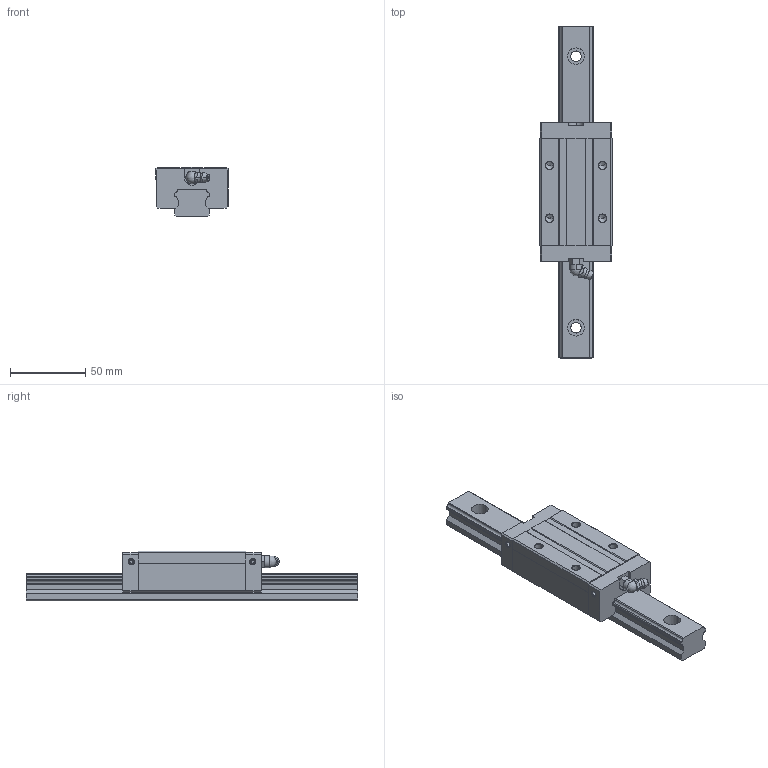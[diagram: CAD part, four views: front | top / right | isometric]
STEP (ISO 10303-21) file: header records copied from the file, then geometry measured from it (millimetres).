
FILE_DESCRIPTION((''),'1');
FILE_NAME(' ',' ',(''),(''),'ACIS Interop R16','Kubotek KeyCreator V6.5.2 (0407)',' ');
FILE_SCHEMA(('CONFIG_CONTROL_DESIGN'));
Length unit declared in the file: millimetre
Products named in the file (3): 1; 2; 3
Bounding box: 48 x 220 x 33 mm (x, y, z)
Volume: 94970.8 mm3; surface area: 38645.4 mm2
Topology: 2 solids, 48 shells, 216 faces, 691 edges, 531 vertices
Faces by surface type: plane 101, cylinder 74, cone 26, torus 10, sphere 3, bspline 2
Entity records: 7922 total; most frequent: CARTESIAN_POINT 1635, DIRECTION 1364, ORIENTED_EDGE 1102, EDGE_CURVE 681, VERTEX_POINT 531, AXIS2_PLACEMENT_3D 488, LINE 388, VECTOR 388
